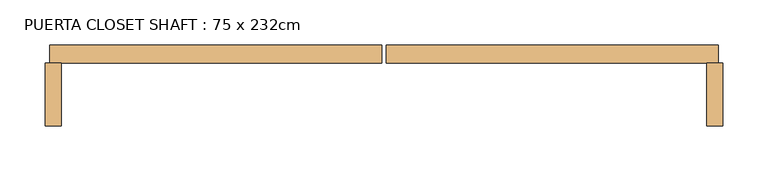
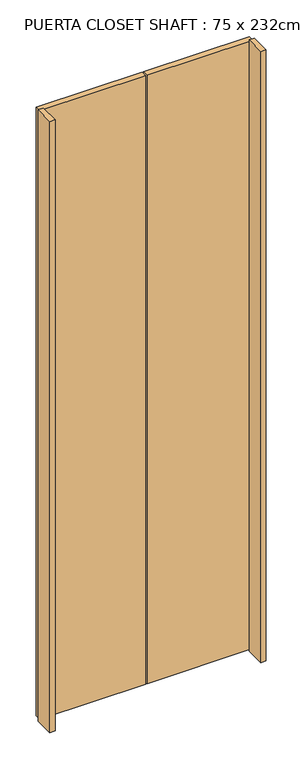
"""IFC4 building model written with IfcOpenShell, lengths in millimetres: door geometry, PUERTA CLOSET SHAFT : 75 x 232cm."""

from ifc_helpers import new_model, si_unit, frame, origin, origin_with_axes, place, context, project, spatial, polyline, outline, extrude, source, transform, mapped, element, save


def puerta_closet_shaft_75_x_232cm_9b8c6cb1(model_context):
    return source(origin(), model_context, "Body", "SweptSolid", [
        extrude(outline(polyline([(-1139.0315708, 35.0), (-1139.0315708, 55.0), (-771.5315708, 55.0), (-771.5315708, 35.0), (-1139.0315708, 35.0)])), frame((0.0, 0.0, 5.0), z_axis=(0.0, 0.0, 1.0), x_axis=(1.0, 0.0, 0.0)), (0.0, 0.0, 1.0), 2230.0),
        extrude(outline(polyline([(-1144.0315708, 35.0), (-1511.5315708, 35.0), (-1511.5315708, 55.0), (-1144.0315708, 55.0), (-1144.0315708, 35.0)])), frame((0.0, 0.0, 5.0), z_axis=(0.0, 0.0, 1.0), x_axis=(1.0, 0.0, 0.0)), (0.0, 0.0, 1.0), 2230.0),
        extrude(outline(polyline([(-766.5315708, 35.0), (-766.5315708, -35.0), (-784.5315708, -35.0), (-784.5315708, 35.0), (-766.5315708, 35.0)])), origin_with_axes(), (0.0, 0.0, 1.0), 2240.0),
        extrude(outline(polyline([(-1498.5315708, 35.0), (-1498.5315708, -35.0), (-1516.5315708, -35.0), (-1516.5315708, 35.0), (-1498.5315708, 35.0)])), origin_with_axes(), (0.0, 0.0, 1.0), 2240.0),
    ])


if __name__ == "__main__":
    model = new_model("IFC4")
    model_context = context("Model", 3, world=origin())
    ifc_project = project(units=[si_unit("LENGTHUNIT", "METRE", prefix="MILLI")], contexts=[model_context])
    site = spatial("IfcSite", under=ifc_project)
    building = spatial("IfcBuilding", under=site)
    placement = place(None, origin())
    puerta_closet_shaft_75_x_232cm_shape = puerta_closet_shaft_75_x_232cm_9b8c6cb1(model_context)
    element("IfcDoor", 1, ObjectType="PUERTA CLOSET SHAFT : 75 x 232cm", at=placement, inside=building, context=model_context, shape_type="MappedRepresentation", body=[
        mapped(puerta_closet_shaft_75_x_232cm_shape, transform((0.0, 0.0, 0.0), x_axis=(1.0, 0.0, 0.0), y_axis=(0.0, 1.0, 0.0), z_axis=(0.0, 0.0, 1.0))),
    ])
    save(model, "model.ifc")
